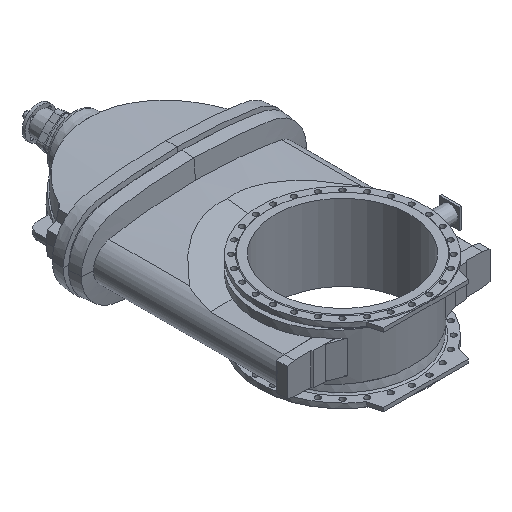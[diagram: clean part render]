
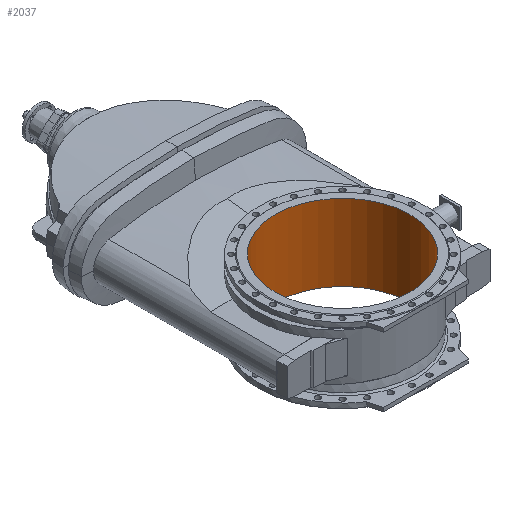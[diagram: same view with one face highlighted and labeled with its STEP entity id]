
A CAD part, isometric view. The second image highlights one B-rep face of the part: STEP entity #2037.
In plain terms, the highlighted cylindrical face has radius 450 mm (diameter 900 mm), a full revolution.
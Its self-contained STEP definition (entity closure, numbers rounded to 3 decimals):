
#176 = FACE_OUTER_BOUND ( 'NONE', #12734, .T. ) ;
#182 = FACE_OUTER_BOUND ( 'NONE', #12731, .T. ) ;
#184 = CYLINDRICAL_SURFACE ( 'NONE', #7843, 450. ) ;
#458 = CIRCLE ( 'NONE', #7974, 450. ) ;
#520 = CIRCLE ( 'NONE', #8006, 450. ) ;
#2037 = ADVANCED_FACE ( 'NONE', ( #176, #182 ), #184, .F. ) ;
#2248 = EDGE_CURVE ( 'NONE', #6528, #6528, #458, .T. ) ;
#2299 = EDGE_CURVE ( 'NONE', #6484, #6484, #520, .T. ) ;
#6484 = VERTEX_POINT ( 'NONE', #8763 ) ;
#6528 = VERTEX_POINT ( 'NONE', #8764 ) ;
#6963 = ORIENTED_EDGE ( 'NONE', *, *, #2299, .T. ) ;
#6964 = ORIENTED_EDGE ( 'NONE', *, *, #2248, .T. ) ;
#7843 = AXIS2_PLACEMENT_3D ( 'NONE', #10934, #10935, #10933 ) ;
#7974 = AXIS2_PLACEMENT_3D ( 'NONE', #9046, #9047, #9048 ) ;
#8006 = AXIS2_PLACEMENT_3D ( 'NONE', #9346, #9347, #9348 ) ;
#8763 = CARTESIAN_POINT ( 'NONE',  ( 450., -50., 255. ) ) ;
#8764 = CARTESIAN_POINT ( 'NONE',  ( 0., -500., -255. ) ) ;
#9046 = CARTESIAN_POINT ( 'NONE',  ( 0., -50., -255. ) ) ;
#9047 = DIRECTION ( 'NONE',  ( 0., 0., -1. ) ) ;
#9048 = DIRECTION ( 'NONE',  ( 0., -1., 0. ) ) ;
#9346 = CARTESIAN_POINT ( 'NONE',  ( 0., -50., 255. ) ) ;
#9347 = DIRECTION ( 'NONE',  ( 0., 0., 1. ) ) ;
#9348 = DIRECTION ( 'NONE',  ( 1., 0., 0. ) ) ;
#10933 = DIRECTION ( 'NONE',  ( 1., 0., 0. ) ) ;
#10934 = CARTESIAN_POINT ( 'NONE',  ( 0., -50., -321.251 ) ) ;
#10935 = DIRECTION ( 'NONE',  ( 0., 0., 1. ) ) ;
#12731 = EDGE_LOOP ( 'NONE', ( #6964 ) ) ;
#12734 = EDGE_LOOP ( 'NONE', ( #6963 ) ) ;
